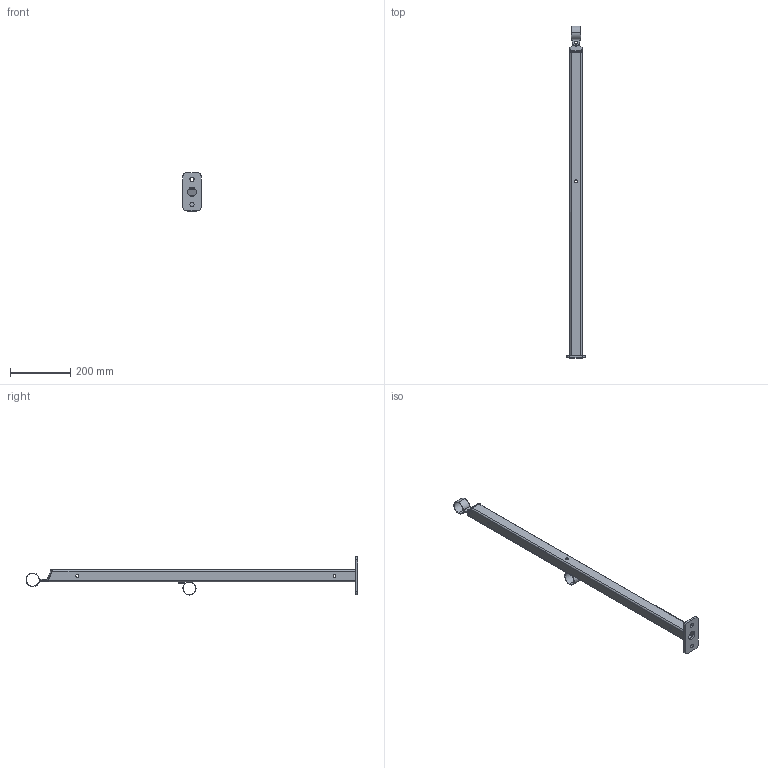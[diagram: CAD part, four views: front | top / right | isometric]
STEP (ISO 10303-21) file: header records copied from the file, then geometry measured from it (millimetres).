
FILE_DESCRIPTION (( 'STEP AP203' ), '1' );
FILE_NAME ('Ståndare KKR 40x40x3 toppmontage för följare.STEP', '2014-09-26T06:33:14', ( '' ), ( '' ), 'SwSTEP 2.0', 'SolidWorks 2014', '' );
FILE_SCHEMA (( 'CONFIG_CONTROL_DESIGN' ));
Length unit declared in the file: millimetre
Products named in the file (1): Ståndare KKR 40x40x3 toppmontage för följare
Bounding box: 60 x 1101.5 x 126.6 mm (x, y, z)
Volume: 504095.8 mm3; surface area: 334200.8 mm2
Topology: 2 solids, 2 shells, 235 faces, 611 edges, 382 vertices
Faces by surface type: plane 119, cylinder 112, bspline 4
Entity records: 7364 total; most frequent: CARTESIAN_POINT 1551, ORIENTED_EDGE 1214, DIRECTION 1189, EDGE_CURVE 607, AXIS2_PLACEMENT_3D 404, VERTEX_POINT 382, LINE 381, VECTOR 381
